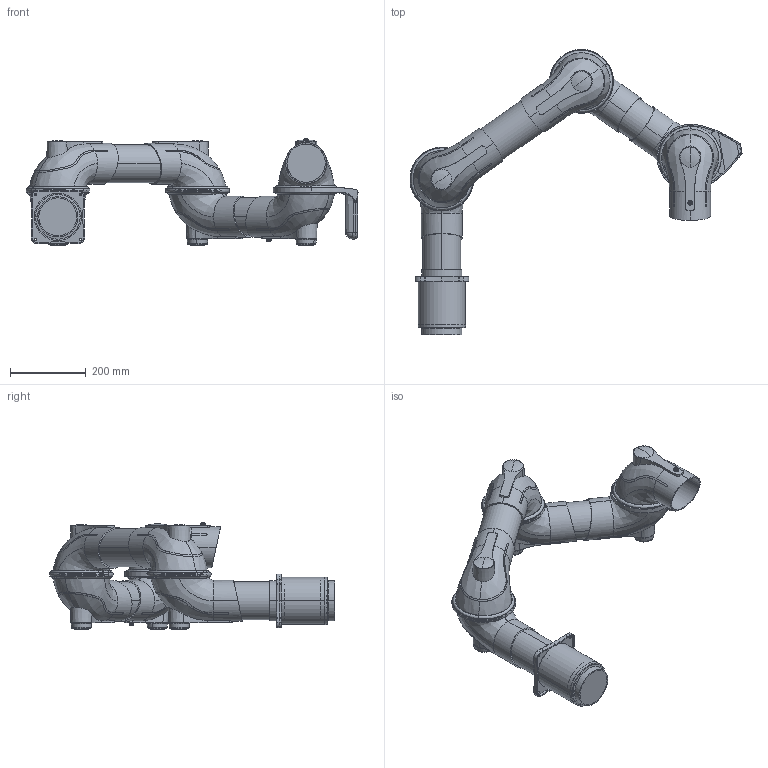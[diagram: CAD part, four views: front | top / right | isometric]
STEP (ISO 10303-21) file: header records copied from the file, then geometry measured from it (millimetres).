
FILE_DESCRIPTION((''),'2;1');
FILE_NAME('112000','2015-01-09T',('Tomas Bellgran'),(''),'PRO/ENGINEER BY PARAMETRIC TECHNOLOGY CORPORATION, 2013410','PRO/ENGINEER BY PARAMETRIC TECHNOLOGY CORPORATION, 2013410','');
FILE_SCHEMA(('AUTOMOTIVE_DESIGN { 1 0 10303 214 1 1 1 1 }'));
Length unit declared in the file: millimetre
Products named in the file (22): 100945; 100252; 100940; 100935; 100249; 100002; 100314; 100001; 100265; 100262; 100278; 100277; 100002_AF10; 100291_AF5; 100001_AF5; 105-5481; 101156; 105-5810; 102135; 102086; 100337; 112000
Assembly tree (28 placements, depth 4):
  112000
    100314
      100945
      100252
      100940
      100935  x2
      100249
      100002
    100262
      100001  x2
      100265
    100277
      100278
      100001
    102086
      100002_AF10
      100291_AF5
      100001_AF5
      101156
        105-5481
      102135  x2
        105-5810
    100337  x2
    101156  x2
      105-5481
Bounding box: 876.29 x 752.44 x 280.35 mm (x, y, z)
Volume: 19080236.4 mm3; surface area: 1447007.9 mm2
Topology: 22 solids, 24 shells, 848 faces, 2071 edges, 1296 vertices
Faces by surface type: bspline 286, plane 235, cylinder 150, cone 108, torus 32, sphere 29, revolution 5, extrusion 3
Entity records: 45811 total; most frequent: CARTESIAN_POINT 21655, ORIENTED_EDGE 2726, DIRECTION 2190, PRESENTATION_STYLE_ASSIGNMENT 1614, STYLED_ITEM 1602, CURVE_STYLE 1363, EDGE_CURVE 1363, PROPERTY_DEFINITION 1009
